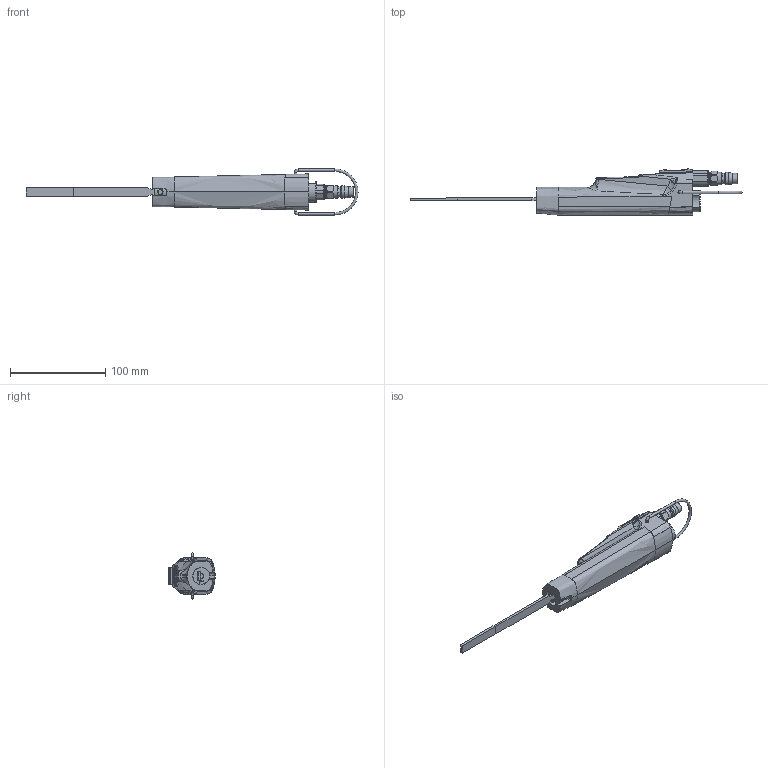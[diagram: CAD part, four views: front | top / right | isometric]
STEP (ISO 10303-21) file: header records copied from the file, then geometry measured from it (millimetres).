
FILE_DESCRIPTION(/* description */ (''),/* implementation_level */ '2;1');
FILE_NAME(/* name */ '',/* time_stamp */ '2026-06-26T10:23:49+09:00',/* author */ (''),/* organization */ (''),/* preprocessor_version */ 'ST-DEVELOPER v20.1',/* originating_system */ 'Autodesk Translation Framework v15.8.0.0',/* authorisation */ '');
FILE_SCHEMA (('AUTOMOTIVE_DESIGN { 1 0 10303 214 3 1 1 }'));
Length unit declared in the file: millimetre
Products named in the file (1): 2026-06-25-17-03-02-820
Bounding box: 348.78 x 48.69 x 48.39 mm (x, y, z)
Volume: 180898.1 mm3; surface area: 45248.4 mm2
Topology: 9 solids, 9 shells, 436 faces, 1187 edges, 768 vertices
Faces by surface type: cylinder 166, plane 148, bspline 102, cone 16, torus 4
Full cylindrical faces by diameter (mm): 2.6 x4, 3.1 x2, 3.8 x1, 5.035 x2, 6 x2, 6.147 x2, 6.45 x1, 7.6 x1, 7.7 x1, 9 x1, 10.85 x1, 11 x1, 11.445 x9, 11.9 x3, 13.1 x2, 13.157 x12, 17.9 x1, 20 x1, 22 x1, 24 x1
Entity records: 29295 total; most frequent: CARTESIAN_POINT 19079, ORIENTED_EDGE 2358, DIRECTION 1755, EDGE_CURVE 1179, VERTEX_POINT 768, AXIS2_PLACEMENT_3D 637, LINE 481, VECTOR 481
